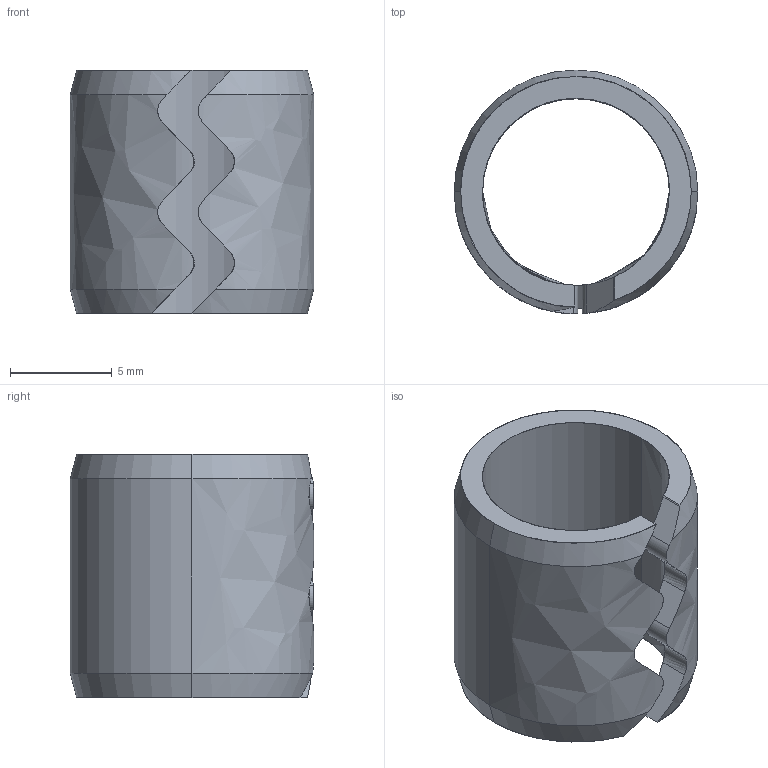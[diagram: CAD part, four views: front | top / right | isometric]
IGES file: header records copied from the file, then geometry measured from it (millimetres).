
Global section: file name: E:\UnigraphicsGraphicData\MISUMI_PRESS-PARTS\IGES\3d_swal12_00416_r00.igs; native system: NX V5.0; preprocessor: UGS NX IGES V5.0; author: MISUMI; date: 20110105.163251; units: millimetre
Bounding box: 12 x 12 x 12 mm (x, y, z)
Surface area: 859.3 mm2 (no closed solid volume)
Topology: 0 solids, 0 shells, 34 faces, 218 edges, 218 vertices
Faces by surface type: bspline 34
